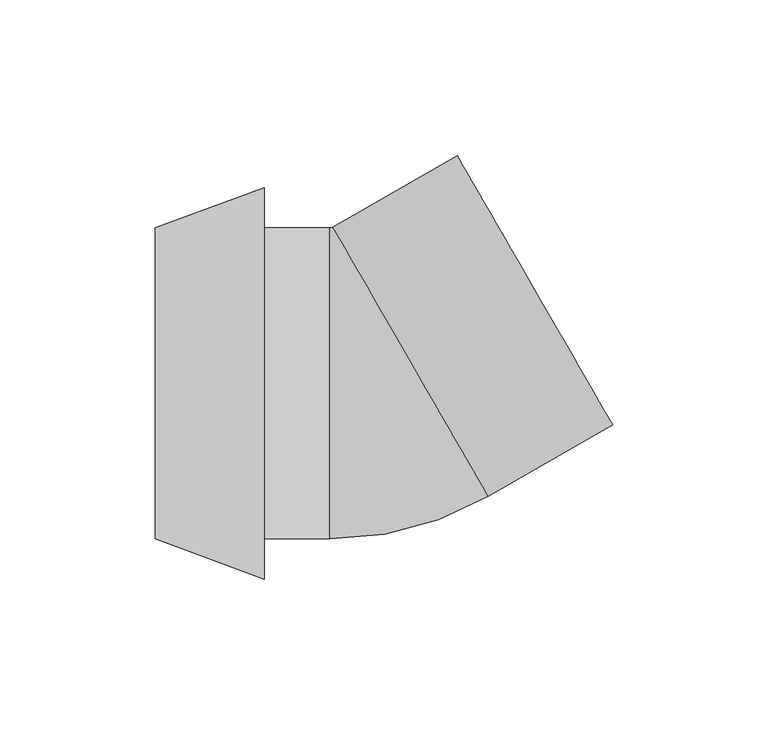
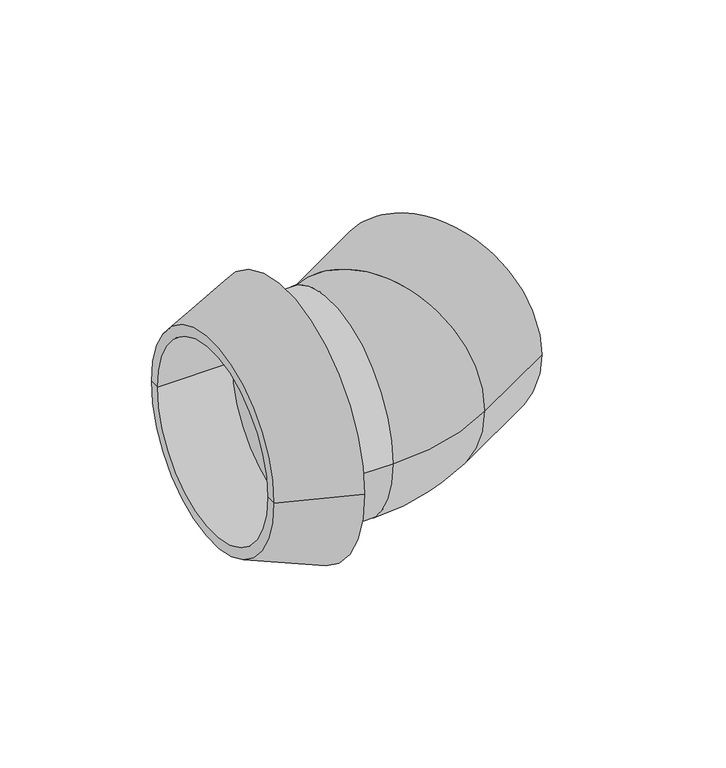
"""IFC4 building model written with IfcOpenShell, lengths in millimetres: duct fitting geometry, NLRS_57_DUF_Easysafe_bocht_M&G : DN100 / 30°."""

from ifc_helpers import new_model, si_unit, point, frame, origin, place, context, project, spatial, polyline, circle_curve, ellipse_curve, trimmed, source, transform, mapped, element, save
from ifc_brep_helpers import plane_surface, cylinder_surface, revolved_surface, advanced_brep


def duct_fitting_1aa9c58e(model_context):
    return source(origin(), model_context, "Body", "AdvancedBrep", [
        advanced_brep(
        [(-35.0, 45.0, 0.0), (-35.0, -45.0, 0.0), (-35.0, -63.0, 0.0), (-35.0, 63.0, 0.0), (-70.0, -50.0, 0.0), (-70.0, 50.0, 0.0), (-70.0, 45.0, 0.0), (-70.0, -45.0, 0.0)],
        [
            (0, 1, circle_curve(frame((-35.0, 0.0, 0.0), z_axis=(-1.0, 0.0, 0.0), x_axis=(0.0, -1.0, 0.0)), 45.0)),
            (1, 2),
            (2, 3, circle_curve(frame((-35.0, 0.0, 0.0), z_axis=(1.0, 0.0, 0.0), x_axis=(0.0, -1.0, 0.0)), 63.0)),
            (3, 0),
            (1, 0, circle_curve(frame((-35.0, 0.0, 0.0), z_axis=(-1.0, 0.0, 0.0), x_axis=(0.0, -1.0, 0.0)), 45.0)),
            (3, 2, circle_curve(frame((-35.0, 0.0, 0.0), z_axis=(1.0, 0.0, 0.0), x_axis=(0.0, -1.0, 0.0)), 63.0)),
            (2, 4, circle_curve(frame((16.8332848, 130.1665359, 0.0), z_axis=(0.0, 0.0, -1.0), x_axis=(0.0, 1.0, 0.0)), 200.0)),
            (4, 5, circle_curve(frame((-70.0, 0.0, 0.0), z_axis=(1.0, 0.0, 0.0), x_axis=(0.0, -1.0, 0.0)), 50.0)),
            (5, 3, circle_curve(frame((16.8332848, -130.1665359, 0.0), z_axis=(0.0, 0.0, -1.0), x_axis=(0.0, -1.0, 0.0)), 200.0)),
            (5, 4, circle_curve(frame((-70.0, 0.0, 0.0), z_axis=(1.0, 0.0, 0.0), x_axis=(0.0, -1.0, 0.0)), 50.0)),
            (6, 7, circle_curve(frame((-70.0, 0.0, 0.0), z_axis=(-1.0, 0.0, 0.0), x_axis=(0.0, -1.0, 0.0)), 45.0)),
            (7, 1),
            (0, 6),
            (7, 6, circle_curve(frame((-70.0, 0.0, 0.0), z_axis=(-1.0, 0.0, 0.0), x_axis=(0.0, -1.0, 0.0)), 45.0)),
            (4, 7),
            (6, 5),
        ],
        [
            plane_surface(frame((-35.0, 0.0, 0.0), z_axis=(1.0, 0.0, 0.0), x_axis=(0.0, -1.0, 0.0))),
            revolved_surface(trimmed(ellipse_curve(frame((16.8332848, 130.1665359, 0.0), z_axis=(0.0, 0.0, 1.0), x_axis=(0.0, 1.0, 0.0)), 200.0, 200.0), [point((-70.0, -50.0, 0.0))], [point((-35.0, -63.0, 0.0))], True, "CARTESIAN"), (-31.7041329, 0.0, 0.0), (1.0, 0.0, 0.0)),
            revolved_surface(polyline([(-35.0, -45.0, 0.0), (-70.0, -45.0, 0.0)]), (-31.7041329, 0.0, 0.0), (1.0, 0.0, 0.0)),
            plane_surface(frame((-70.0, 0.0, 0.0), z_axis=(-1.0, 0.0, 0.0), x_axis=(0.0, -1.0, 0.0))),
        ],
        [
            (0, [[1, 2, 3, 4]]),
            (0, [[5, -4, 6, -2]]),
            (1, [[-3, 7, 8, 9]]),
            (1, [[-6, -9, 10, -7]]),
            (2, [[11, 12, -1, 13]]),
            (2, [[14, -13, -5, -12]]),
            (3, [[-8, 15, -11, 16]]),
            (3, [[-10, -16, -14, -15]]),
        ],
    ),
        advanced_brep(
        [(26.9615242, 73.3012702, 0.0), (76.9615242, -13.3012702, 0.0), (-12.933358, 50.2679492, 0.0), (37.066642, -36.3345912, 0.0), (-13.933358, -50.0, 0.0), (-13.933358, 50.0, 0.0), (-35.0, 50.0, 0.0), (-35.0, -50.0, 0.0)],
        [
            (0, 1, circle_curve(frame((51.9615242, 30.0, 0.0), z_axis=(0.8660254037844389, 0.4999999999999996, 0.0), x_axis=(0.4999999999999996, -0.8660254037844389, 0.0)), 50.0)),
            (1, 0, circle_curve(frame((51.9615242, 30.0, 0.0), z_axis=(0.8660254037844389, 0.4999999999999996, 0.0), x_axis=(0.4999999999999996, -0.8660254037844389, 0.0)), 50.0)),
            (0, 2),
            (2, 3, circle_curve(frame((12.066642, 6.966679, 0.0), z_axis=(0.8660254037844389, 0.4999999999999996, 0.0), x_axis=(0.4999999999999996, -0.8660254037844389, 0.0)), 50.0)),
            (3, 1),
            (3, 2, circle_curve(frame((12.066642, 6.966679, 0.0), z_axis=(0.8660254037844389, 0.4999999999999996, 0.0), x_axis=(0.4999999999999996, -0.8660254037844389, 0.0)), 50.0)),
            (4, 3, circle_curve(frame((-13.933358, 52.0, 0.0), z_axis=(0.0, 0.0, 1.0), x_axis=(0.5000000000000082, -0.8660254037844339, 0.0)), 102.0)),
            (2, 5, circle_curve(frame((-13.933358, 52.0, 0.0), z_axis=(0.0, 0.0, -1.0), x_axis=(0.5000000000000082, -0.8660254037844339, 0.0)), 2.0)),
            (5, 4, circle_curve(frame((-13.933358, 0.0, 0.0), z_axis=(1.0, 0.0, 0.0), x_axis=(0.0, -1.0, 0.0)), 50.0)),
            (4, 5, circle_curve(frame((-13.933358, 0.0, 0.0), z_axis=(1.0, 0.0, 0.0), x_axis=(0.0, -1.0, 0.0)), 50.0)),
            (6, 7, circle_curve(frame((-35.0, 0.0, 0.0), z_axis=(-1.0, 0.0, 0.0), x_axis=(0.0, -1.0, 0.0)), 50.0)),
            (7, 6, circle_curve(frame((-35.0, 0.0, 0.0), z_axis=(-1.0, 0.0, 0.0), x_axis=(0.0, -1.0, 0.0)), 50.0)),
            (5, 6),
            (7, 4),
        ],
        [
            plane_surface(frame((51.9615242, 30.0, 0.0), z_axis=(0.8660254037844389, 0.4999999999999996, 0.0), x_axis=(0.0, 0.0, 1.0))),
            cylinder_surface(frame((51.9615242, 30.0, 0.0), z_axis=(0.8660254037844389, 0.4999999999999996, 0.0), x_axis=(0.4999999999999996, -0.8660254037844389, 0.0)), 50.0),
            revolved_surface(trimmed(ellipse_curve(frame((12.066642, 6.966679, 0.0), z_axis=(0.8660254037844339, 0.5000000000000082, 0.0), x_axis=(0.5000000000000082, -0.8660254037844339, 0.0)), 50.0, 50.0), [point((-12.933358, 50.2679492, 0.0))], [point((37.066642, -36.3345912, 0.0))], True, "CARTESIAN"), (-13.933358, 52.0, 0.0), (0.0, 0.0, -1.0)),
            revolved_surface(trimmed(ellipse_curve(frame((12.066642, 6.966679, 0.0), z_axis=(0.8660254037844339, 0.5000000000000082, 0.0), x_axis=(0.5000000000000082, -0.8660254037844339, 0.0)), 50.0, 50.0), [point((37.066642, -36.3345912, 0.0))], [point((-12.933358, 50.2679492, 0.0))], True, "CARTESIAN"), (-13.933358, 52.0, 0.0), (0.0, 0.0, -1.0)),
            plane_surface(frame((-35.0, 0.0, 0.0), z_axis=(-1.0, 0.0, 0.0), x_axis=(0.0, 0.0, 1.0))),
            cylinder_surface(frame((-13.933358, 0.0, 0.0), z_axis=(1.0, 0.0, 0.0), x_axis=(0.0, -1.0, 0.0)), 50.0),
        ],
        [
            (0, [[1, 2]]),
            (1, [[-1, 3, 4, 5]]),
            (1, [[-2, -5, 6, -3]]),
            (2, [[7, -4, 8, 9]]),
            (3, [[-8, -6, -7, 10]]),
            (4, [[11, 12]]),
            (5, [[-9, 13, -12, 14]]),
            (5, [[-10, -14, -11, -13]]),
        ],
    ),
    ])


if __name__ == "__main__":
    model = new_model("IFC4")
    model_context = context("Model", 3, world=origin())
    ifc_project = project(units=[si_unit("LENGTHUNIT", "METRE", prefix="MILLI")], contexts=[model_context])
    site = spatial("IfcSite", under=ifc_project)
    building = spatial("IfcBuilding", under=site)
    placement = place(None, origin())
    duct_fitting_shape = duct_fitting_1aa9c58e(model_context)
    element("IfcDuctFitting", 1, ObjectType="NLRS_57_DUF_Easysafe_bocht_M&G : DN100 / 30°", at=placement, inside=building, context=model_context, shape_type="MappedRepresentation", body=[
        mapped(duct_fitting_shape, transform((0.0, 0.0, 0.0), x_axis=(1.0, 0.0, 0.0), y_axis=(0.0, 1.0, 0.0), z_axis=(0.0, 0.0, 1.0))),
    ])
    save(model, "model.ifc")
